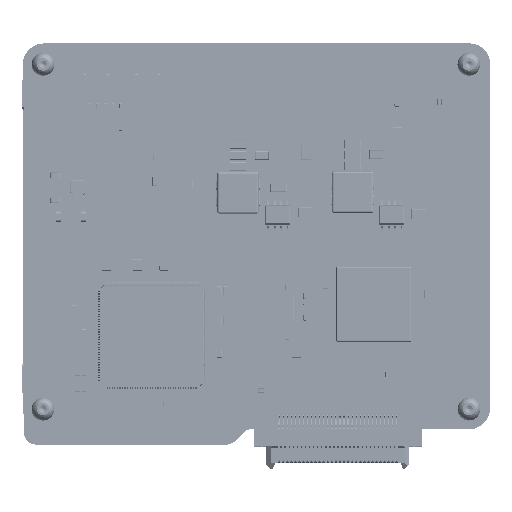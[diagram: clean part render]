
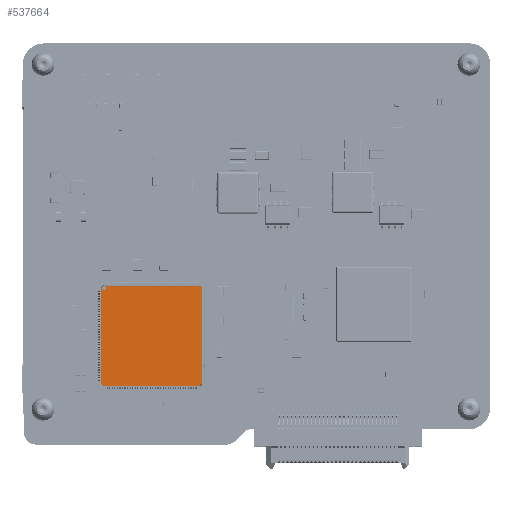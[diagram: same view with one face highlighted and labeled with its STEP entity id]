
A CAD part, top view. The second image highlights one B-rep face of the part: STEP entity #537664.
In plain terms, the highlighted planar face has unit normal (0, 0, 1).
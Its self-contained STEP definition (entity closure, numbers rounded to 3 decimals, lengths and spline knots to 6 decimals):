
#19993=CIRCLE('',#591999,0.0003);
#152192=ORIENTED_EDGE('',*,*,#252415,.F.);
#152193=ORIENTED_EDGE('',*,*,#252416,.F.);
#152194=ORIENTED_EDGE('',*,*,#252417,.F.);
#152195=ORIENTED_EDGE('',*,*,#252418,.F.);
#152196=ORIENTED_EDGE('',*,*,#252419,.F.);
#152197=ORIENTED_EDGE('',*,*,#252420,.F.);
#152198=ORIENTED_EDGE('',*,*,#252421,.F.);
#152199=ORIENTED_EDGE('',*,*,#252422,.F.);
#152200=ORIENTED_EDGE('',*,*,#248382,.T.);
#248382=EDGE_CURVE('',#307197,#307197,#19993,.F.);
#252415=EDGE_CURVE('',#310078,#310079,#362591,.F.);
#252416=EDGE_CURVE('',#310080,#310078,#362592,.F.);
#252417=EDGE_CURVE('',#310081,#310080,#362593,.T.);
#252418=EDGE_CURVE('',#310082,#310081,#362594,.F.);
#252419=EDGE_CURVE('',#310083,#310082,#362595,.T.);
#252420=EDGE_CURVE('',#310084,#310083,#362596,.F.);
#252421=EDGE_CURVE('',#310085,#310084,#362597,.F.);
#252422=EDGE_CURVE('',#310079,#310085,#362598,.F.);
#307197=VERTEX_POINT('',#887381);
#310078=VERTEX_POINT('',#895592);
#310079=VERTEX_POINT('',#895593);
#310080=VERTEX_POINT('',#895595);
#310081=VERTEX_POINT('',#895597);
#310082=VERTEX_POINT('',#895599);
#310083=VERTEX_POINT('',#895601);
#310084=VERTEX_POINT('',#895603);
#310085=VERTEX_POINT('',#895605);
#362591=LINE('',#895591,#417522);
#362592=LINE('',#895594,#417523);
#362593=LINE('',#895596,#417524);
#362594=LINE('',#895598,#417525);
#362595=LINE('',#895600,#417526);
#362596=LINE('',#895602,#417527);
#362597=LINE('',#895604,#417528);
#362598=LINE('',#895606,#417529);
#417522=VECTOR('',#712080,1.);
#417523=VECTOR('',#712081,1.);
#417524=VECTOR('',#712082,1.);
#417525=VECTOR('',#712083,1.);
#417526=VECTOR('',#712084,1.);
#417527=VECTOR('',#712085,1.);
#417528=VECTOR('',#712086,1.);
#417529=VECTOR('',#712087,1.);
#456153=EDGE_LOOP('',(#152192,#152193,#152194,#152195,#152196,#152197,#152198,
#152199));
#456154=EDGE_LOOP('',(#152200));
#487641=FACE_BOUND('',#456153,.T.);
#487642=FACE_BOUND('',#456154,.T.);
#509840=PLANE('',#594448);
#537664=ADVANCED_FACE('',(#487641,#487642),#509840,.T.);
#591999=AXIS2_PLACEMENT_3D('',#887380,#704300,#704301);
#594448=AXIS2_PLACEMENT_3D('',#895590,#712078,#712079);
#704300=DIRECTION('',(0.,0.,1.));
#704301=DIRECTION('',(1.,0.,0.));
#712078=DIRECTION('',(0.,0.,1.));
#712079=DIRECTION('',(1.,0.,0.));
#712080=DIRECTION('',(0.,1.,0.));
#712081=DIRECTION('',(-0.707,0.707,0.));
#712082=DIRECTION('',(1.,0.,0.));
#712083=DIRECTION('',(-0.707,-0.707,0.));
#712084=DIRECTION('',(0.,1.,0.));
#712085=DIRECTION('',(0.707,-0.707,0.));
#712086=DIRECTION('',(1.,0.,0.));
#712087=DIRECTION('',(0.707,0.707,0.));
#887380=CARTESIAN_POINT('',(0.0415,0.058195,0.0016));
#887381=CARTESIAN_POINT('',(0.0418,0.058195,0.0016));
#895590=CARTESIAN_POINT('',(0.0508,0.048895,0.0016));
#895591=CARTESIAN_POINT('',(0.0607,0.048895,0.0016));
#895592=CARTESIAN_POINT('',(0.0607,0.058354,0.0016));
#895593=CARTESIAN_POINT('',(0.0607,0.039436,0.0016));
#895594=CARTESIAN_POINT('',(0.060479,0.058574,0.0016));
#895595=CARTESIAN_POINT('',(0.060259,0.058795,0.0016));
#895596=CARTESIAN_POINT('',(0.0508,0.058795,0.0016));
#895597=CARTESIAN_POINT('',(0.041341,0.058795,0.0016));
#895598=CARTESIAN_POINT('',(0.041121,0.058574,0.0016));
#895599=CARTESIAN_POINT('',(0.0409,0.058354,0.0016));
#895600=CARTESIAN_POINT('',(0.0409,0.048895,0.0016));
#895601=CARTESIAN_POINT('',(0.0409,0.039436,0.0016));
#895602=CARTESIAN_POINT('',(0.041121,0.039216,0.0016));
#895603=CARTESIAN_POINT('',(0.041341,0.038995,0.0016));
#895604=CARTESIAN_POINT('',(0.0508,0.038995,0.0016));
#895605=CARTESIAN_POINT('',(0.060259,0.038995,0.0016));
#895606=CARTESIAN_POINT('',(0.060479,0.039216,0.0016));
